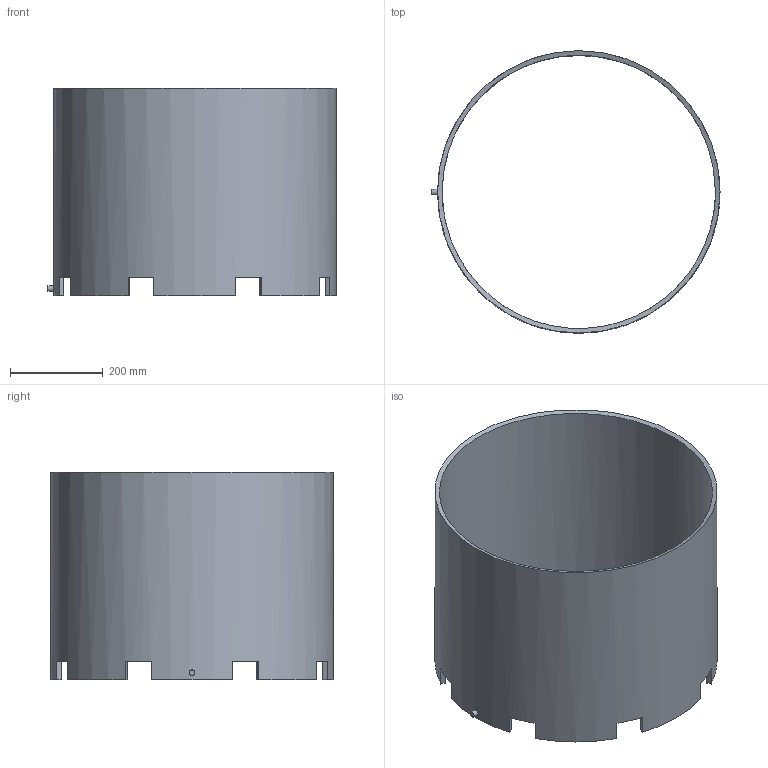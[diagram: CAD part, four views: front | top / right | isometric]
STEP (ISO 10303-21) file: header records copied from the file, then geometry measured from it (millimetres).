
FILE_DESCRIPTION(('Open CASCADE Model'),'2;1');
FILE_NAME('Open CASCADE Shape Model','2026-09-07T11:14:05',('Author'),( 'Open CASCADE'),'Open CASCADE STEP processor 7.9','Open CASCADE 7.9' ,'Unknown');
FILE_SCHEMA(('AUTOMOTIVE_DESIGN { 1 0 10303 214 1 1 1 1 }'));
Length unit declared in the file: millimetre
Products named in the file (1): Open CASCADE STEP translator 7.9 5
Bounding box: 622 x 610 x 447.65 mm (x, y, z)
Volume: 8217336 mm3; surface area: 1688793.6 mm2
Topology: 1 solids, 1 shells, 37 faces, 106 edges, 70 vertices
Faces by surface type: plane 33, cylinder 3, sphere 1
Full cylindrical faces by diameter (mm): 12 x1, 590 x1, 610 x1
Entity records: 3203 total; most frequent: CARTESIAN_POINT 1204, DIRECTION 345, ORIENTED_EDGE 212, PCURVE 212, DEFINITIONAL_REPRESENTATION 212, LINE 176, VECTOR 176, EDGE_CURVE 106
